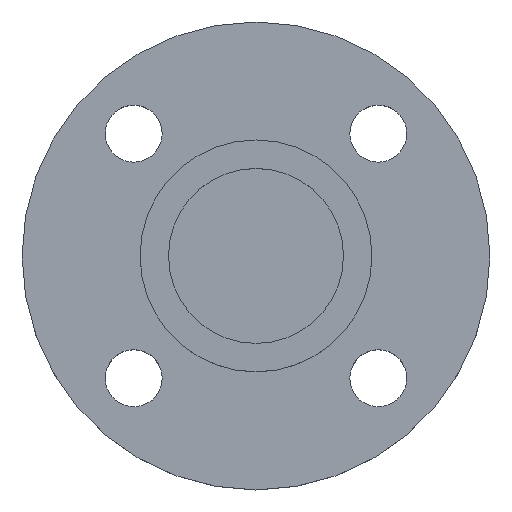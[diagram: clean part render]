
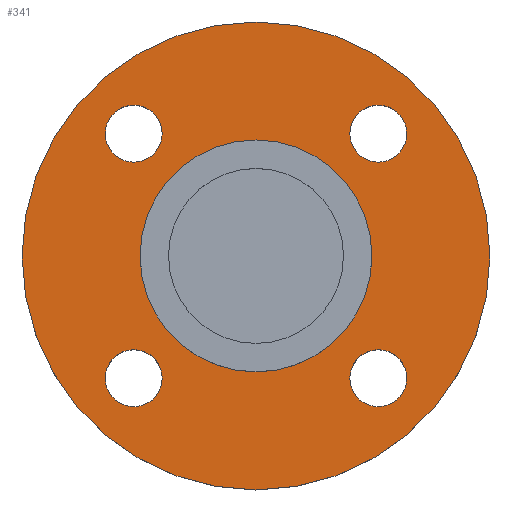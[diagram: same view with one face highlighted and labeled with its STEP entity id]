
A CAD part, top view. The second image highlights one B-rep face of the part: STEP entity #341.
In plain terms, the highlighted planar face has unit normal (0, 0, 1).
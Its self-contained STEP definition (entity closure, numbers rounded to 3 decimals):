
#8 = EDGE_CURVE ( 'NONE', #539, #732, #237, .T. ) ;
#11 = CIRCLE ( 'NONE', #528, 7. ) ;
#39 = EDGE_CURVE ( 'NONE', #745, #631, #497, .T. ) ;
#43 = CIRCLE ( 'NONE', #188, 28.5 ) ;
#61 = CIRCLE ( 'NONE', #335, 7. ) ;
#73 = DIRECTION ( 'NONE',  ( -1., 0., 0. ) ) ;
#75 = DIRECTION ( 'NONE',  ( 0., 0., -1. ) ) ;
#76 = CARTESIAN_POINT ( 'NONE',  ( 0., 0., -4.5 ) ) ;
#87 = CARTESIAN_POINT ( 'NONE',  ( -57.5, 0., -4.5 ) ) ;
#99 = CARTESIAN_POINT ( 'NONE',  ( 23.052, 30.052, -4.5 ) ) ;
#100 = CARTESIAN_POINT ( 'NONE',  ( -28.5, 0., -4.5 ) ) ;
#101 = CARTESIAN_POINT ( 'NONE',  ( 37.052, -30.052, -4.5 ) ) ;
#113 = DIRECTION ( 'NONE',  ( 1., 0., 0. ) ) ;
#114 = DIRECTION ( 'NONE',  ( 0., 0., -1. ) ) ;
#115 = CARTESIAN_POINT ( 'NONE',  ( -30.052, 30.052, -4.5 ) ) ;
#120 = EDGE_CURVE ( 'NONE', #737, #536, #513, .T. ) ;
#140 = CIRCLE ( 'NONE', #347, 7. ) ;
#154 = DIRECTION ( 'NONE',  ( 1., 0., 0. ) ) ;
#156 = DIRECTION ( 'NONE',  ( 0., 0., -1. ) ) ;
#157 = CARTESIAN_POINT ( 'NONE',  ( -30.052, -30.052, -4.5 ) ) ;
#166 = DIRECTION ( 'NONE',  ( 1., 0., 0. ) ) ;
#167 = DIRECTION ( 'NONE',  ( 0., 0., -1. ) ) ;
#168 = CARTESIAN_POINT ( 'NONE',  ( 30.052, 30.052, -4.5 ) ) ;
#170 = CARTESIAN_POINT ( 'NONE',  ( -30.052, 30.052, -4.5 ) ) ;
#174 = CIRCLE ( 'NONE', #196, 28.5 ) ;
#188 = AXIS2_PLACEMENT_3D ( 'NONE', #366, #368, #369 ) ;
#194 = DIRECTION ( 'NONE',  ( 0., 0., -1. ) ) ;
#195 = DIRECTION ( 'NONE',  ( 1., 0., 0. ) ) ;
#196 = AXIS2_PLACEMENT_3D ( 'NONE', #76, #75, #73 ) ;
#208 = AXIS2_PLACEMENT_3D ( 'NONE', #790, #806, #807 ) ;
#224 = CARTESIAN_POINT ( 'NONE',  ( -23.052, 30.052, -4.5 ) ) ;
#228 = CARTESIAN_POINT ( 'NONE',  ( 28.5, 0., -4.5 ) ) ;
#232 = CARTESIAN_POINT ( 'NONE',  ( 23.052, -30.052, -4.5 ) ) ;
#237 = CIRCLE ( 'NONE', #489, 7. ) ;
#246 = CARTESIAN_POINT ( 'NONE',  ( -30.052, -30.052, -4.5 ) ) ;
#248 = DIRECTION ( 'NONE',  ( 1., 0., 0. ) ) ;
#251 = CARTESIAN_POINT ( 'NONE',  ( -37.052, 30.052, -4.5 ) ) ;
#262 = EDGE_CURVE ( 'NONE', #732, #539, #11, .T. ) ;
#272 = CARTESIAN_POINT ( 'NONE',  ( 30.052, -30.052, -4.5 ) ) ;
#273 = DIRECTION ( 'NONE',  ( 0., 0., -1. ) ) ;
#274 = DIRECTION ( 'NONE',  ( 1., 0., 0. ) ) ;
#297 = FACE_BOUND ( 'NONE', #721, .T. ) ;
#298 = FACE_BOUND ( 'NONE', #510, .T. ) ;
#299 = FACE_BOUND ( 'NONE', #722, .T. ) ;
#300 = FACE_BOUND ( 'NONE', #619, .T. ) ;
#303 = DIRECTION ( 'NONE',  ( 0., 0., -1. ) ) ;
#304 = FACE_BOUND ( 'NONE', #533, .T. ) ;
#305 = FACE_OUTER_BOUND ( 'NONE', #724, .T. ) ;
#308 = PLANE ( 'NONE',  #423 ) ;
#313 = CARTESIAN_POINT ( 'NONE',  ( 28.5, 0., -4.5 ) ) ;
#314 = DIRECTION ( 'NONE',  ( 0., 0., 1. ) ) ;
#315 = CIRCLE ( 'NONE', #336, 57.5 ) ;
#319 = DIRECTION ( 'NONE',  ( 1., 0., 0. ) ) ;
#330 = CARTESIAN_POINT ( 'NONE',  ( -23.052, -30.052, -4.5 ) ) ;
#333 = AXIS2_PLACEMENT_3D ( 'NONE', #157, #156, #154 ) ;
#335 = AXIS2_PLACEMENT_3D ( 'NONE', #465, #409, #248 ) ;
#336 = AXIS2_PLACEMENT_3D ( 'NONE', #459, #451, #464 ) ;
#341 = ADVANCED_FACE ( 'NONE', ( #297, #298, #299, #300, #304, #305 ), #308, .T. ) ;
#346 = CIRCLE ( 'NONE', #333, 7. ) ;
#347 = AXIS2_PLACEMENT_3D ( 'NONE', #115, #114, #113 ) ;
#354 = AXIS2_PLACEMENT_3D ( 'NONE', #246, #303, #461 ) ;
#364 = AXIS2_PLACEMENT_3D ( 'NONE', #170, #167, #166 ) ;
#366 = CARTESIAN_POINT ( 'NONE',  ( 0., 0., -4.5 ) ) ;
#368 = DIRECTION ( 'NONE',  ( 0., 0., -1. ) ) ;
#369 = DIRECTION ( 'NONE',  ( -1., 0., 0. ) ) ;
#373 = CIRCLE ( 'NONE', #364, 7. ) ;
#409 = DIRECTION ( 'NONE',  ( 0., 0., -1. ) ) ;
#423 = AXIS2_PLACEMENT_3D ( 'NONE', #313, #314, #319 ) ;
#425 = EDGE_CURVE ( 'NONE', #734, #543, #43, .T. ) ;
#438 = CARTESIAN_POINT ( 'NONE',  ( 37.052, 30.052, -4.5 ) ) ;
#441 = CIRCLE ( 'NONE', #354, 7. ) ;
#451 = DIRECTION ( 'NONE',  ( 0., 0., -1. ) ) ;
#459 = CARTESIAN_POINT ( 'NONE',  ( 0., 0., -4.5 ) ) ;
#461 = DIRECTION ( 'NONE',  ( 1., 0., 0. ) ) ;
#464 = DIRECTION ( 'NONE',  ( -1., 0., 0. ) ) ;
#465 = CARTESIAN_POINT ( 'NONE',  ( 30.052, 30.052, -4.5 ) ) ;
#475 = CARTESIAN_POINT ( 'NONE',  ( 57.5, 0., -4.5 ) ) ;
#477 = EDGE_CURVE ( 'NONE', #740, #519, #441, .T. ) ;
#486 = EDGE_CURVE ( 'NONE', #631, #745, #315, .T. ) ;
#488 = EDGE_CURVE ( 'NONE', #536, #737, #61, .T. ) ;
#489 = AXIS2_PLACEMENT_3D ( 'NONE', #759, #760, #761 ) ;
#497 = CIRCLE ( 'NONE', #208, 57.5 ) ;
#510 = EDGE_LOOP ( 'NONE', ( #612, #613 ) ) ;
#511 = AXIS2_PLACEMENT_3D ( 'NONE', #168, #194, #195 ) ;
#513 = CIRCLE ( 'NONE', #511, 7. ) ;
#515 = VERTEX_POINT ( 'NONE', #251 ) ;
#519 = VERTEX_POINT ( 'NONE', #330 ) ;
#528 = AXIS2_PLACEMENT_3D ( 'NONE', #272, #273, #274 ) ;
#533 = EDGE_LOOP ( 'NONE', ( #623, #626 ) ) ;
#536 = VERTEX_POINT ( 'NONE', #438 ) ;
#539 = VERTEX_POINT ( 'NONE', #232 ) ;
#543 = VERTEX_POINT ( 'NONE', #228 ) ;
#550 = VERTEX_POINT ( 'NONE', #224 ) ;
#599 = EDGE_CURVE ( 'NONE', #550, #515, #373, .T. ) ;
#610 = ORIENTED_EDGE ( 'NONE', *, *, #262, .T. ) ;
#611 = ORIENTED_EDGE ( 'NONE', *, *, #8, .T. ) ;
#612 = ORIENTED_EDGE ( 'NONE', *, *, #624, .T. ) ;
#613 = ORIENTED_EDGE ( 'NONE', *, *, #477, .T. ) ;
#616 = ORIENTED_EDGE ( 'NONE', *, *, #599, .T. ) ;
#617 = ORIENTED_EDGE ( 'NONE', *, *, #708, .T. ) ;
#618 = ORIENTED_EDGE ( 'NONE', *, *, #488, .T. ) ;
#619 = EDGE_LOOP ( 'NONE', ( #618, #622 ) ) ;
#622 = ORIENTED_EDGE ( 'NONE', *, *, #120, .T. ) ;
#623 = ORIENTED_EDGE ( 'NONE', *, *, #425, .T. ) ;
#624 = EDGE_CURVE ( 'NONE', #519, #740, #346, .T. ) ;
#626 = ORIENTED_EDGE ( 'NONE', *, *, #768, .T. ) ;
#628 = ORIENTED_EDGE ( 'NONE', *, *, #486, .F. ) ;
#629 = ORIENTED_EDGE ( 'NONE', *, *, #39, .F. ) ;
#631 = VERTEX_POINT ( 'NONE', #475 ) ;
#690 = CARTESIAN_POINT ( 'NONE',  ( -37.052, -30.052, -4.5 ) ) ;
#708 = EDGE_CURVE ( 'NONE', #515, #550, #140, .T. ) ;
#721 = EDGE_LOOP ( 'NONE', ( #610, #611 ) ) ;
#722 = EDGE_LOOP ( 'NONE', ( #616, #617 ) ) ;
#724 = EDGE_LOOP ( 'NONE', ( #628, #629 ) ) ;
#732 = VERTEX_POINT ( 'NONE', #101 ) ;
#734 = VERTEX_POINT ( 'NONE', #100 ) ;
#737 = VERTEX_POINT ( 'NONE', #99 ) ;
#740 = VERTEX_POINT ( 'NONE', #690 ) ;
#745 = VERTEX_POINT ( 'NONE', #87 ) ;
#759 = CARTESIAN_POINT ( 'NONE',  ( 30.052, -30.052, -4.5 ) ) ;
#760 = DIRECTION ( 'NONE',  ( 0., 0., -1. ) ) ;
#761 = DIRECTION ( 'NONE',  ( 1., 0., 0. ) ) ;
#768 = EDGE_CURVE ( 'NONE', #543, #734, #174, .T. ) ;
#790 = CARTESIAN_POINT ( 'NONE',  ( 0., 0., -4.5 ) ) ;
#806 = DIRECTION ( 'NONE',  ( 0., 0., -1. ) ) ;
#807 = DIRECTION ( 'NONE',  ( -1., 0., 0. ) ) ;
